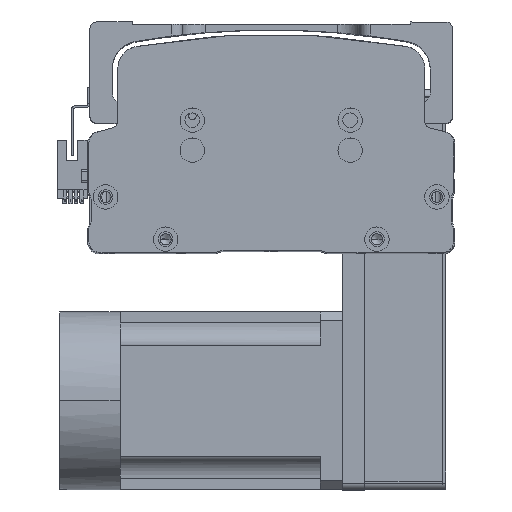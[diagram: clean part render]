
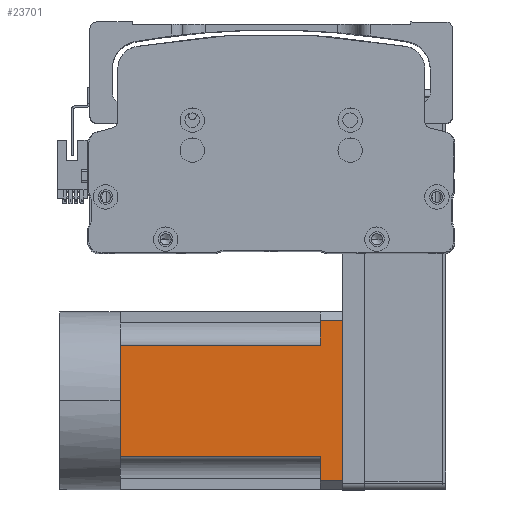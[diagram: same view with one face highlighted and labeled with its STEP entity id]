
A CAD part, top view. The second image highlights one B-rep face of the part: STEP entity #23701.
In plain terms, the highlighted planar face has unit normal (0, 0, 1) as drawn and (0, 0, -1) by its records, which use the part's own axes.
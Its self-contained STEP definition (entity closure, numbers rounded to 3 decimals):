
#546 = EDGE_CURVE ( 'NONE', #18023, #53838, #13439, .T. ) ;
#2233 = VECTOR ( 'NONE', #26752, 1000. ) ;
#2951 = ORIENTED_EDGE ( 'NONE', *, *, #54341, .F. ) ;
#3793 = LINE ( 'NONE', #13468, #51357 ) ;
#4426 = CARTESIAN_POINT ( 'NONE',  ( -40., 100., -40. ) ) ;
#4454 = VERTEX_POINT ( 'NONE', #47946 ) ;
#4734 = CARTESIAN_POINT ( 'NONE',  ( -25., -27., -40. ) ) ;
#4904 = EDGE_CURVE ( 'NONE', #22820, #28259, #11458, .T. ) ;
#7004 = LINE ( 'NONE', #41905, #40880 ) ;
#8252 = ORIENTED_EDGE ( 'NONE', *, *, #42911, .T. ) ;
#8480 = VERTEX_POINT ( 'NONE', #17062 ) ;
#9905 = DIRECTION ( 'NONE',  ( -1., 0., 0. ) ) ;
#10563 = DIRECTION ( 'NONE',  ( -1., 0., 0. ) ) ;
#11458 = LINE ( 'NONE', #52466, #34514 ) ;
#13439 = LINE ( 'NONE', #45452, #35027 ) ;
#13468 = CARTESIAN_POINT ( 'NONE',  ( -36., -27., -40. ) ) ;
#13723 = ORIENTED_EDGE ( 'NONE', *, *, #19871, .T. ) ;
#17016 = DIRECTION ( 'NONE',  ( -1., 0., 0. ) ) ;
#17062 = CARTESIAN_POINT ( 'NONE',  ( -36., 100., -40. ) ) ;
#17880 = VECTOR ( 'NONE', #17016, 1000. ) ;
#17929 = DIRECTION ( 'NONE',  ( 0., -1., 0. ) ) ;
#18023 = VERTEX_POINT ( 'NONE', #42393 ) ;
#18640 = CARTESIAN_POINT ( 'NONE',  ( 36., 90., -40. ) ) ;
#18665 = DIRECTION ( 'NONE',  ( 0., 1., 0. ) ) ;
#18949 = EDGE_CURVE ( 'NONE', #53838, #36137, #44301, .T. ) ;
#19871 = EDGE_CURVE ( 'NONE', #4454, #8480, #3793, .T. ) ;
#20292 = DIRECTION ( 'NONE',  ( -1., 0., 0. ) ) ;
#22682 = ORIENTED_EDGE ( 'NONE', *, *, #26173, .T. ) ;
#22716 = DIRECTION ( 'NONE',  ( 0., 1., 0. ) ) ;
#22820 = VERTEX_POINT ( 'NONE', #40045 ) ;
#23162 = ORIENTED_EDGE ( 'NONE', *, *, #18949, .T. ) ;
#23701 = ADVANCED_FACE ( 'NONE', ( #51353 ), #47193, .T. ) ;
#26173 = EDGE_CURVE ( 'NONE', #36137, #22820, #7004, .T. ) ;
#26752 = DIRECTION ( 'NONE',  ( -1., 0., 0. ) ) ;
#26798 = LINE ( 'NONE', #40438, #2233 ) ;
#28259 = VERTEX_POINT ( 'NONE', #33244 ) ;
#28896 = CARTESIAN_POINT ( 'NONE',  ( -40., -27., -40. ) ) ;
#30120 = LINE ( 'NONE', #30711, #17880 ) ;
#30223 = EDGE_LOOP ( 'NONE', ( #2951, #43274, #23162, #22682, #50301, #8252, #39950, #35238, #13723 ) ) ;
#30711 = CARTESIAN_POINT ( 'NONE',  ( -40., 0., -40. ) ) ;
#31452 = AXIS2_PLACEMENT_3D ( 'NONE', #28896, #38134, #10563 ) ;
#32043 = DIRECTION ( 'NONE',  ( -1., 0., 0. ) ) ;
#33244 = CARTESIAN_POINT ( 'NONE',  ( 0., 0., -40. ) ) ;
#33527 = VECTOR ( 'NONE', #9905, 1000. ) ;
#34344 = CARTESIAN_POINT ( 'NONE',  ( 25., 90., -40. ) ) ;
#34514 = VECTOR ( 'NONE', #20292, 1000. ) ;
#35027 = VECTOR ( 'NONE', #17929, 1000. ) ;
#35208 = CARTESIAN_POINT ( 'NONE',  ( -25., 0., -40. ) ) ;
#35238 = ORIENTED_EDGE ( 'NONE', *, *, #40191, .T. ) ;
#36137 = VERTEX_POINT ( 'NONE', #34344 ) ;
#37319 = VERTEX_POINT ( 'NONE', #57696 ) ;
#37486 = CARTESIAN_POINT ( 'NONE',  ( -40., 90., -40. ) ) ;
#38134 = DIRECTION ( 'NONE',  ( 0., 0., -1. ) ) ;
#39928 = VECTOR ( 'NONE', #32043, 1000. ) ;
#39950 = ORIENTED_EDGE ( 'NONE', *, *, #44197, .T. ) ;
#40045 = CARTESIAN_POINT ( 'NONE',  ( 25., 0., -40. ) ) ;
#40191 = EDGE_CURVE ( 'NONE', #37319, #4454, #26798, .T. ) ;
#40438 = CARTESIAN_POINT ( 'NONE',  ( -40., 90., -40. ) ) ;
#40880 = VECTOR ( 'NONE', #46564, 1000. ) ;
#41905 = CARTESIAN_POINT ( 'NONE',  ( 25., -27., -40. ) ) ;
#42393 = CARTESIAN_POINT ( 'NONE',  ( 36., 100., -40. ) ) ;
#42911 = EDGE_CURVE ( 'NONE', #28259, #58914, #30120, .T. ) ;
#43274 = ORIENTED_EDGE ( 'NONE', *, *, #546, .T. ) ;
#44197 = EDGE_CURVE ( 'NONE', #58914, #37319, #57972, .T. ) ;
#44301 = LINE ( 'NONE', #37486, #33527 ) ;
#45452 = CARTESIAN_POINT ( 'NONE',  ( 36., -27., -40. ) ) ;
#45748 = VECTOR ( 'NONE', #18665, 1000. ) ;
#46564 = DIRECTION ( 'NONE',  ( 0., -1., 0. ) ) ;
#47193 = PLANE ( 'NONE',  #31452 ) ;
#47946 = CARTESIAN_POINT ( 'NONE',  ( -36., 90., -40. ) ) ;
#50301 = ORIENTED_EDGE ( 'NONE', *, *, #4904, .T. ) ;
#51353 = FACE_OUTER_BOUND ( 'NONE', #30223, .T. ) ;
#51357 = VECTOR ( 'NONE', #22716, 1000. ) ;
#52145 = LINE ( 'NONE', #4426, #39928 ) ;
#52466 = CARTESIAN_POINT ( 'NONE',  ( -40., 0., -40. ) ) ;
#53838 = VERTEX_POINT ( 'NONE', #18640 ) ;
#54341 = EDGE_CURVE ( 'NONE', #18023, #8480, #52145, .T. ) ;
#57696 = CARTESIAN_POINT ( 'NONE',  ( -25., 90., -40. ) ) ;
#57972 = LINE ( 'NONE', #4734, #45748 ) ;
#58914 = VERTEX_POINT ( 'NONE', #35208 ) ;
